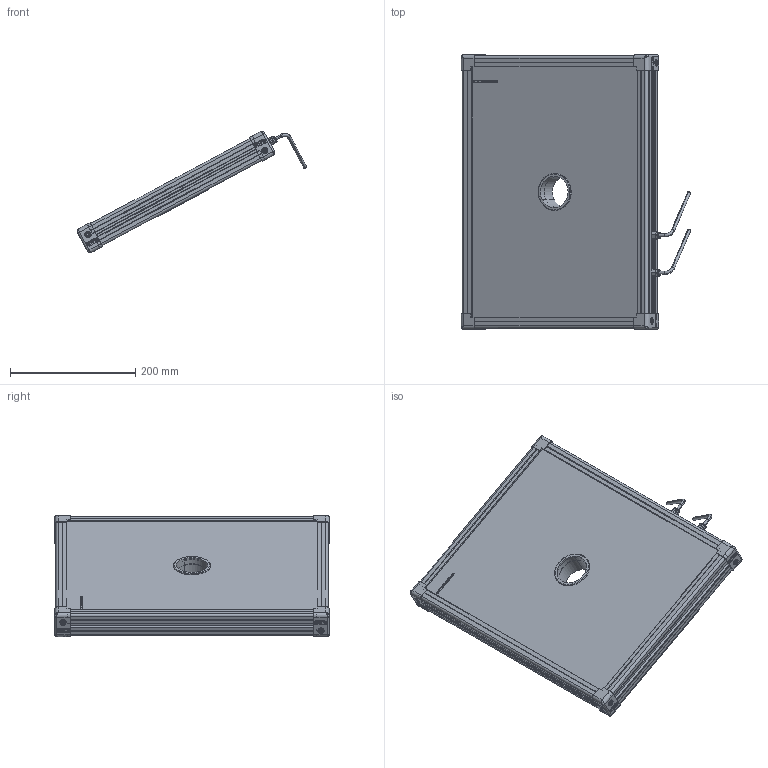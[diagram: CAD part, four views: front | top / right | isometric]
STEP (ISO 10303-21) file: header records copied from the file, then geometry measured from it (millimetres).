
FILE_DESCRIPTION (( 'STEP AP214' ), '1' );
FILE_NAME ('EFFI-FD-300-400-ZZZ-2M12.STEP', '2021-06-21T12:04:39', ( '' ), ( '' ), 'SwSTEP 2.0', 'SolidWorks 2021', '' );
FILE_SCHEMA (( 'AUTOMOTIVE_DESIGN' ));
Length unit declared in the file: millimetre
Products named in the file (13): 000590; 000629; Pièce13^EFFI-BL-XXX-YYY-ZZZ (2 connecteurs) Ø50; petite joue + vis; petite joue; profile Y_PERCE; cordon_Avec cable; 001040; 001039; profile X_PERCE; EFFI-FD-300-400-ZZZ-2M12; Assemblage Ø50
Assembly tree (20 placements, depth 3):
  EFFI-FD-300-400-ZZZ-2M12
    profile X_PERCE  x2
    profile Y_PERCE
    profile Y_PERCE
    Pièce13^EFFI-BL-XXX-YYY-ZZZ (2 connecteurs) Ø50
    petite joue + vis  x4
      petite joue
      000629
    Assemblage Ø50
      001039
      001040
      000590  x3
    cordon_Avec cable  x2
Bounding box: 366.32 x 439 x 193.94 mm (x, y, z)
Volume: 5077797.8 mm3; surface area: 563319.7 mm2
Topology: 22 solids, 34 shells, 4044 faces, 10746 edges, 7052 vertices
Faces by surface type: plane 2495, cylinder 739, bspline 603, cone 154, torus 45, sphere 8
Entity records: 56929 total; most frequent: CARTESIAN_POINT 22745, ORIENTED_EDGE 7120, DIRECTION 5873, EDGE_CURVE 3564, LINE 2489, VECTOR 2489, VERTEX_POINT 2343, AXIS2_PLACEMENT_3D 1692
